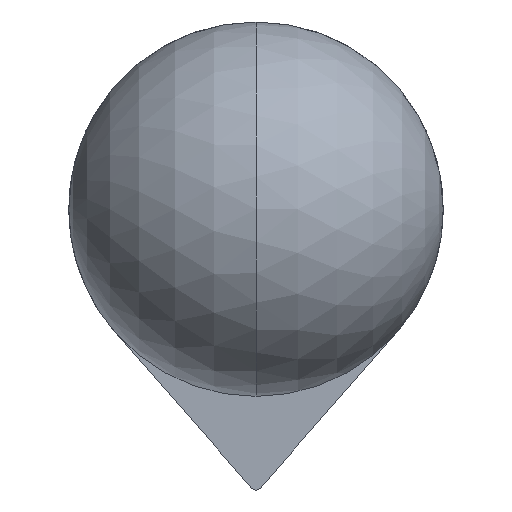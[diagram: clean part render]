
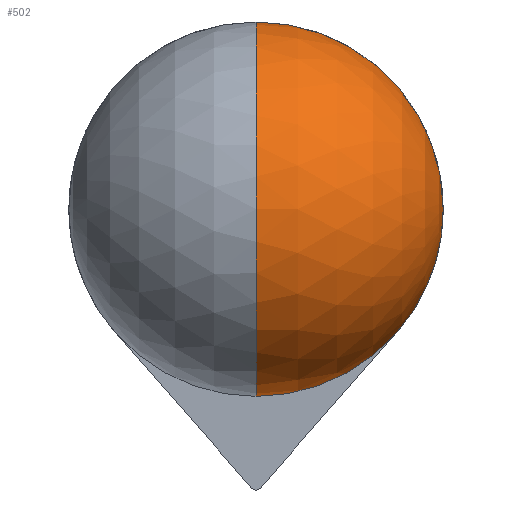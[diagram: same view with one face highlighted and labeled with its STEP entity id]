
A CAD part, front view. The second image highlights one B-rep face of the part: STEP entity #502.
In plain terms, the highlighted spherical face has radius 10 mm.
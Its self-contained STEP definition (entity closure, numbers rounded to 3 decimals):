
#57 = SPHERICAL_SURFACE ( 'NONE', #476, 10. ) ;
#68 = VERTEX_POINT ( 'NONE', #877 ) ;
#74 = CARTESIAN_POINT ( 'NONE',  ( 0., 79., 0. ) ) ;
#77 = DIRECTION ( 'NONE',  ( 0., 0., 1. ) ) ;
#89 = CARTESIAN_POINT ( 'NONE',  ( 0., 79., 0. ) ) ;
#132 = AXIS2_PLACEMENT_3D ( 'NONE', #442, #1170, #1076 ) ;
#210 = EDGE_CURVE ( 'NONE', #68, #950, #495, .T. ) ;
#275 = DIRECTION ( 'NONE',  ( 1., 0., 0. ) ) ;
#334 = DIRECTION ( 'NONE',  ( 0., 0., 1. ) ) ;
#371 = DIRECTION ( 'NONE',  ( 0., 0., -1. ) ) ;
#372 = CIRCLE ( 'NONE', #132, 10. ) ;
#389 = ORIENTED_EDGE ( 'NONE', *, *, #805, .T. ) ;
#399 = AXIS2_PLACEMENT_3D ( 'NONE', #904, #275, #459 ) ;
#442 = CARTESIAN_POINT ( 'NONE',  ( 0., 79., 0. ) ) ;
#459 = DIRECTION ( 'NONE',  ( 0., 0., -1. ) ) ;
#467 = CARTESIAN_POINT ( 'NONE',  ( 0., 79., 10. ) ) ;
#476 = AXIS2_PLACEMENT_3D ( 'NONE', #1117, #1022, #371 ) ;
#482 = CARTESIAN_POINT ( 'NONE',  ( -7.514, 79., -6.599 ) ) ;
#495 = CIRCLE ( 'NONE', #399, 10. ) ;
#502 = ADVANCED_FACE ( 'NONE', ( #655 ), #57, .T. ) ;
#547 = VERTEX_POINT ( 'NONE', #482 ) ;
#566 = ORIENTED_EDGE ( 'NONE', *, *, #210, .F. ) ;
#655 = FACE_OUTER_BOUND ( 'NONE', #679, .T. ) ;
#679 = EDGE_LOOP ( 'NONE', ( #747, #1005, #566, #389 ) ) ;
#723 = CIRCLE ( 'NONE', #870, 10. ) ;
#747 = ORIENTED_EDGE ( 'NONE', *, *, #780, .T. ) ;
#779 = DIRECTION ( 'NONE',  ( 0., 1., 0. ) ) ;
#780 = EDGE_CURVE ( 'NONE', #547, #1122, #1085, .T. ) ;
#805 = EDGE_CURVE ( 'NONE', #68, #547, #723, .T. ) ;
#807 = AXIS2_PLACEMENT_3D ( 'NONE', #74, #779, #334 ) ;
#828 = EDGE_CURVE ( 'NONE', #1122, #950, #372, .T. ) ;
#870 = AXIS2_PLACEMENT_3D ( 'NONE', #89, #1066, #77 ) ;
#877 = CARTESIAN_POINT ( 'NONE',  ( 0., 79., -10. ) ) ;
#904 = CARTESIAN_POINT ( 'NONE',  ( 0., 79., 0. ) ) ;
#950 = VERTEX_POINT ( 'NONE', #1082 ) ;
#1005 = ORIENTED_EDGE ( 'NONE', *, *, #828, .T. ) ;
#1022 = DIRECTION ( 'NONE',  ( -1., 0., 0. ) ) ;
#1066 = DIRECTION ( 'NONE',  ( 0., 1., 0. ) ) ;
#1076 = DIRECTION ( 'NONE',  ( 0., 0., 1. ) ) ;
#1082 = CARTESIAN_POINT ( 'NONE',  ( 0., 89., 0. ) ) ;
#1085 = CIRCLE ( 'NONE', #807, 10. ) ;
#1117 = CARTESIAN_POINT ( 'NONE',  ( 0., 79., 0. ) ) ;
#1122 = VERTEX_POINT ( 'NONE', #467 ) ;
#1170 = DIRECTION ( 'NONE',  ( -1., 0., 0. ) ) ;
